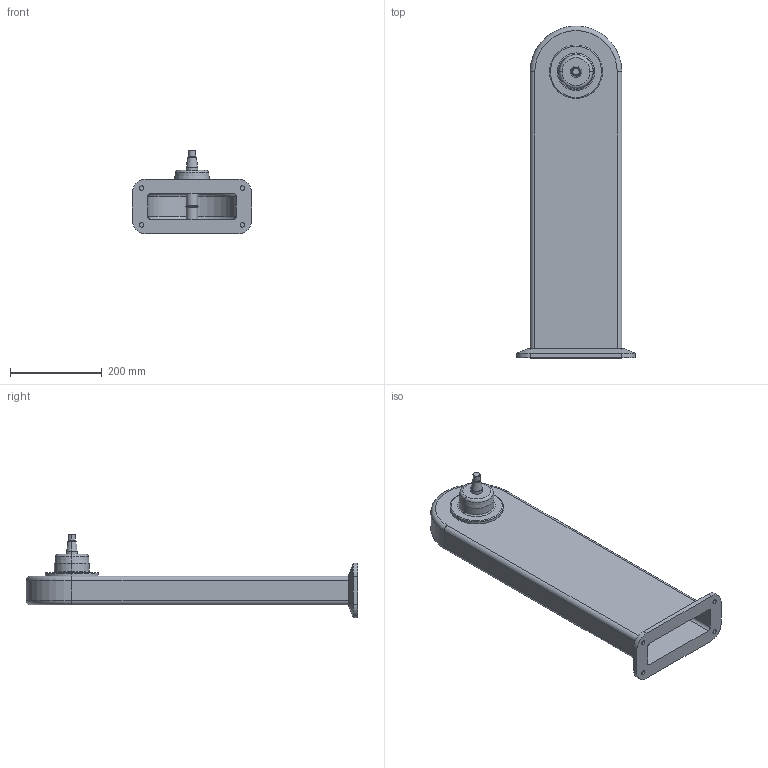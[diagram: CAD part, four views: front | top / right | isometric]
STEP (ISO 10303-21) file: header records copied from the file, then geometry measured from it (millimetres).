
FILE_DESCRIPTION (( 'STEP AP214' ), '1' );
FILE_NAME ('WP800_H625_+00.STEP', '2014-06-26T12:20:35', ( '' ), ( '' ), 'SwSTEP 2.0', 'SolidWorks 2014', '' );
FILE_SCHEMA (( 'AUTOMOTIVE_DESIGN' ));
Length unit declared in the file: millimetre
Products named in the file (1): WP800_H625_+00
Bounding box: 260 x 725 x 183.29 mm (x, y, z)
Volume: 1650583.7 mm3; surface area: 770418.1 mm2
Topology: 1 solids, 1 shells, 88 faces, 190 edges, 114 vertices
Faces by surface type: cylinder 36, plane 26, cone 16, torus 10
Entity records: 2428 total; most frequent: DIRECTION 468, CARTESIAN_POINT 393, ORIENTED_EDGE 380, EDGE_CURVE 190, AXIS2_PLACEMENT_3D 189, VERTEX_POINT 114, CIRCLE 100, EDGE_LOOP 100
